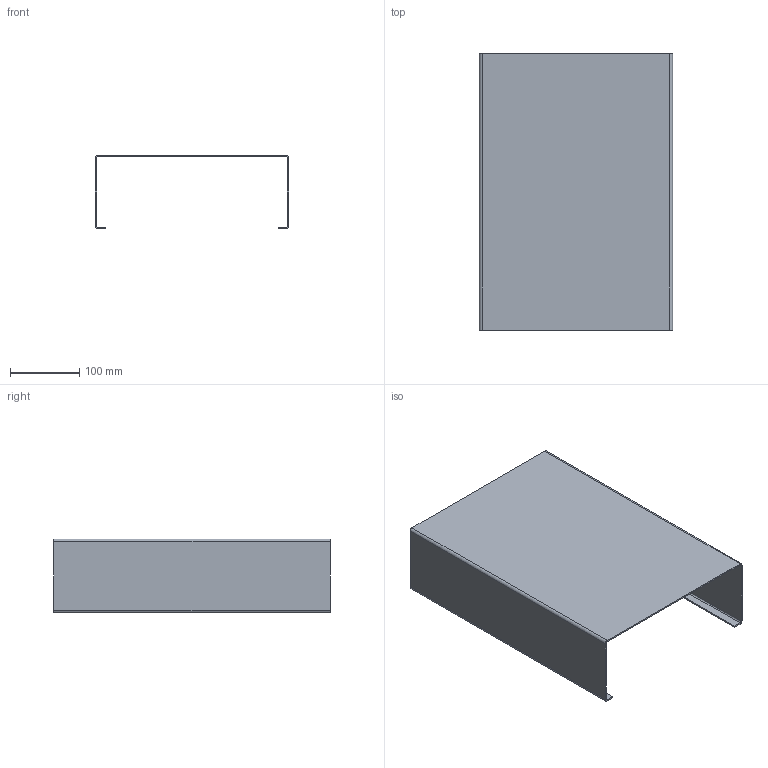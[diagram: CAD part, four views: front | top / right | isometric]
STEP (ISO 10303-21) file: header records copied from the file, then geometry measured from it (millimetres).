
FILE_DESCRIPTION(('FreeCAD Model'),'2;1');
FILE_NAME('/home/gizmo/Desktop/SE EL34/mobile/telaio.stp', '2014-09-29T17:11:40',('FreeCAD'),('FreeCAD'), 'Open CASCADE STEP processor 6.7','FreeCAD','Unknown');
FILE_SCHEMA(('AUTOMOTIVE_DESIGN_CC2 { 1 2 10303 214 -1 1 5 4 }'));
Length unit declared in the file: millimetre
Products named in the file (1): Telaio
Bounding box: 280 x 400 x 107 mm (x, y, z)
Volume: 408679.6 mm3; surface area: 412323 mm2
Topology: 1 solids, 1 shells, 22 faces, 76 edges, 56 vertices
Faces by surface type: plane 14, cylinder 8
Entity records: 1917 total; most frequent: CARTESIAN_POINT 403, DIRECTION 290, LINE 164, VECTOR 164, ORIENTED_EDGE 152, PCURVE 152, DEFINITIONAL_REPRESENTATION 152, EDGE_CURVE 76
